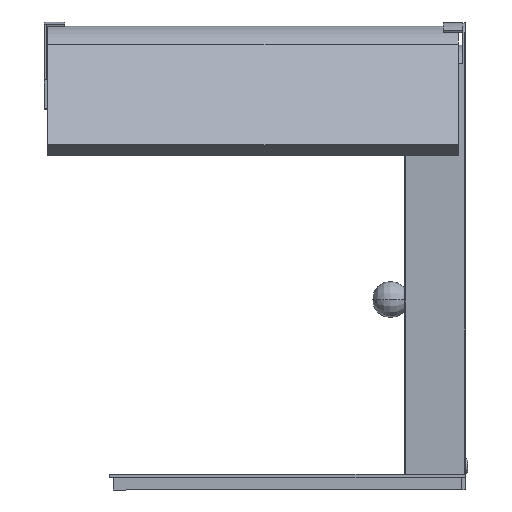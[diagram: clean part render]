
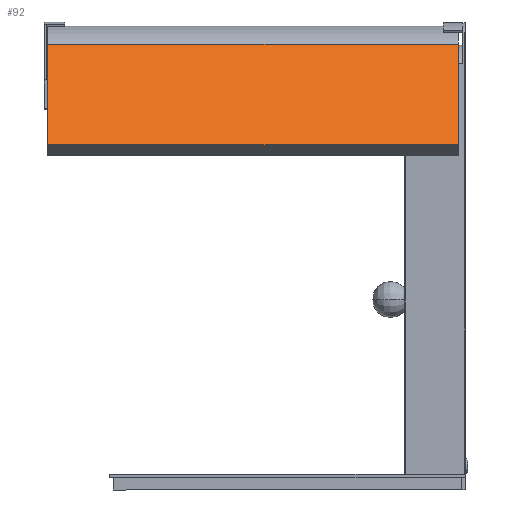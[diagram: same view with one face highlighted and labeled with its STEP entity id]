
A CAD part, front view. The second image highlights one B-rep face of the part: STEP entity #92.
In plain terms, the highlighted planar face has unit normal (0, -0.796, 0.605).
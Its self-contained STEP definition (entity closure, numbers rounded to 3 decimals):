
#92=ADVANCED_FACE('',(#224),#2230,.T.);
#224=FACE_OUTER_BOUND('',#359,.T.);
#359=EDGE_LOOP('',(#730,#731,#732,#733));
#730=ORIENTED_EDGE('',*,*,#1340,.T.);
#731=ORIENTED_EDGE('',*,*,#1341,.T.);
#732=ORIENTED_EDGE('',*,*,#1342,.F.);
#733=ORIENTED_EDGE('',*,*,#1343,.T.);
#1340=EDGE_CURVE('',#2038,#2037,#1787,.T.);
#1341=EDGE_CURVE('',#2037,#2044,#1788,.T.);
#1342=EDGE_CURVE('',#2043,#2044,#1789,.T.);
#1343=EDGE_CURVE('',#2043,#2038,#1790,.T.);
#1787=B_SPLINE_CURVE_WITH_KNOTS('',1,(#3932,#3933),.UNSPECIFIED.,.F.,.F.,
(2,2),(0.,104.608),.UNSPECIFIED.);
#1788=B_SPLINE_CURVE_WITH_KNOTS('',1,(#3934,#3935),.UNSPECIFIED.,.F.,.F.,
(2,2),(0.,340.),.UNSPECIFIED.);
#1789=B_SPLINE_CURVE_WITH_KNOTS('',1,(#3936,#3937),.UNSPECIFIED.,.F.,.F.,
(2,2),(0.,104.608),.UNSPECIFIED.);
#1790=B_SPLINE_CURVE_WITH_KNOTS('',1,(#3938,#3939),.UNSPECIFIED.,.F.,.F.,
(2,2),(-340.,0.),.UNSPECIFIED.);
#2037=VERTEX_POINT('',#3481);
#2038=VERTEX_POINT('',#3482);
#2043=VERTEX_POINT('',#3487);
#2044=VERTEX_POINT('',#3488);
#2230=PLANE('',#2344);
#2344=AXIS2_PLACEMENT_3D('',#2739,#2442,$);
#2442=DIRECTION('',(0.,-0.796,0.605));
#2739=CARTESIAN_POINT('',(28.079,-100.861,277.863));
#3481=CARTESIAN_POINT('',(-6.041,-31.118,369.598));
#3482=CARTESIAN_POINT('',(-6.041,-94.428,286.324));
#3487=CARTESIAN_POINT('',(-346.041,-94.428,286.324));
#3488=CARTESIAN_POINT('',(-346.041,-31.118,369.598));
#3932=CARTESIAN_POINT('',(-6.041,-94.428,286.324));
#3933=CARTESIAN_POINT('',(-6.041,-31.118,369.598));
#3934=CARTESIAN_POINT('',(-6.041,-31.118,369.598));
#3935=CARTESIAN_POINT('',(-346.041,-31.118,369.598));
#3936=CARTESIAN_POINT('',(-346.041,-94.428,286.324));
#3937=CARTESIAN_POINT('',(-346.041,-31.118,369.598));
#3938=CARTESIAN_POINT('',(-346.041,-94.428,286.324));
#3939=CARTESIAN_POINT('',(-6.041,-94.428,286.324));
